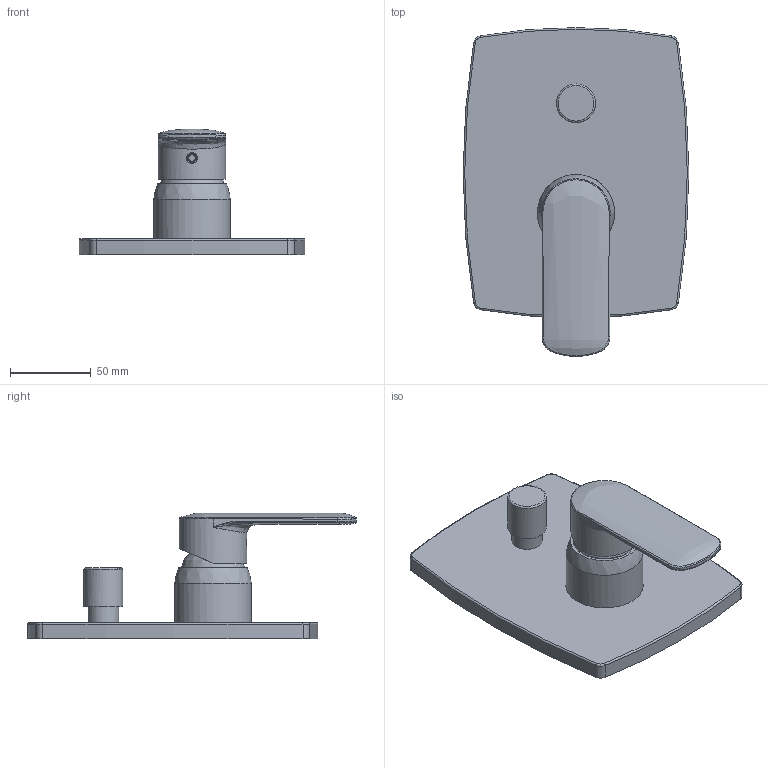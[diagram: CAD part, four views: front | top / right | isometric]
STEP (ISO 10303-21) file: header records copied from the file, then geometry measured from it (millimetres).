
FILE_DESCRIPTION(/* description */ (''),/* implementation_level */ '2;1');
FILE_NAME(/* name */ 'c:\worker\convert-fusion-r09\tmp\job-1\4\output\files\546cc321-4ba8-4b5d-90bb-bee382e873fe\bf0b8ed1-6852-489c-bdd8-22a30c409385.zip.stp',/* time_stamp */ '2019-12-14T14:35:45+00:00',/* author */ (''),/* organization */ (''),/* preprocessor_version */ 'ST-DEVELOPER v18',/* originating_system */ 'Autodesk Translation Framework v8.12.0.6',/* authorisation */ '');
FILE_SCHEMA (('AUTOMOTIVE_DESIGN { 1 0 10303 214 3 1 1 }'));
Length unit declared in the file: millimetre
Products named in the file (1): !EB2135
Bounding box: 140 x 203.96 x 77.95 mm (x, y, z)
Volume: 76756.9 mm3; surface area: 94299.5 mm2
Topology: 5 solids, 6 shells, 171 faces, 488 edges, 335 vertices
Faces by surface type: cylinder 66, bspline 41, plane 40, torus 16, cone 8
Full cylindrical faces by diameter (mm): 4.2 x1, 5 x1, 6.7 x1, 18.5 x1, 19 x1, 21.6 x1, 24 x1, 28 x1, 30.8 x5, 35.8 x3, 39.6 x1, 40.7 x3, 42 x1, 44.5 x1, 47.5 x1, 48 x1
Entity records: 16186 total; most frequent: CARTESIAN_POINT 11911, ORIENTED_EDGE 972, DIRECTION 791, EDGE_CURVE 486, VERTEX_POINT 335, AXIS2_PLACEMENT_3D 331, CIRCLE 197, EDGE_LOOP 191
